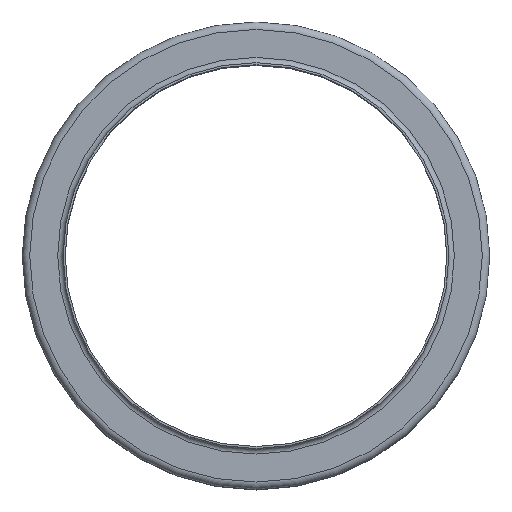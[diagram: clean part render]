
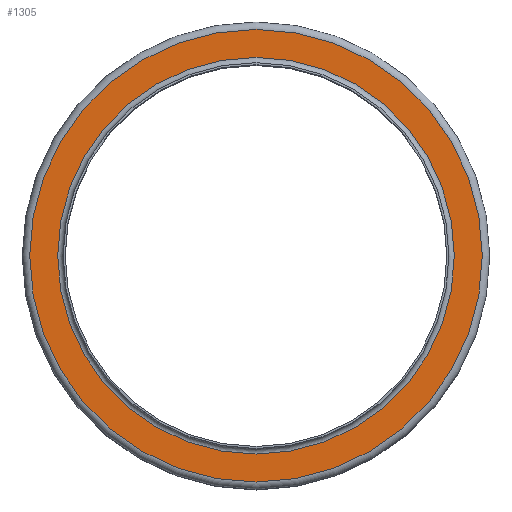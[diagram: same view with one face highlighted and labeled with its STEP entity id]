
A CAD part, top view. The second image highlights one B-rep face of the part: STEP entity #1305.
In plain terms, the highlighted planar face has unit normal (0, 0, 1).
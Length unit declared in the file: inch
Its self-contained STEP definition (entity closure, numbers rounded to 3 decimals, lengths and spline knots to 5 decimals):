
#130=FACE_BOUND('',#384,.T.);
#229=FACE_OUTER_BOUND('',#383,.T.);
#383=EDGE_LOOP('',(#1108));
#384=EDGE_LOOP('',(#1109));
#545=CIRCLE('',#1574,2.89025);
#546=CIRCLE('',#1576,3.29775);
#658=VERTEX_POINT('',#2470);
#659=VERTEX_POINT('',#2474);
#811=EDGE_CURVE('',#658,#658,#545,.T.);
#812=EDGE_CURVE('',#659,#659,#546,.T.);
#1108=ORIENTED_EDGE('',*,*,#812,.F.);
#1109=ORIENTED_EDGE('',*,*,#811,.T.);
#1206=PLANE('',#1575);
#1305=ADVANCED_FACE('',(#229,#130),#1206,.T.);
#1574=AXIS2_PLACEMENT_3D('',#2472,#2070,#2071);
#1575=AXIS2_PLACEMENT_3D('',#2473,#2072,#2073);
#1576=AXIS2_PLACEMENT_3D('',#2475,#2074,#2075);
#2070=DIRECTION('center_axis',(0.,0.,-1.));
#2071=DIRECTION('ref_axis',(1.,0.,0.));
#2072=DIRECTION('center_axis',(0.,0.,1.));
#2073=DIRECTION('ref_axis',(1.,0.,0.));
#2074=DIRECTION('center_axis',(0.,0.,-1.));
#2075=DIRECTION('ref_axis',(1.,0.,0.));
#2470=CARTESIAN_POINT('',(2.89025,0.,-0.07875));
#2472=CARTESIAN_POINT('Origin',(0.,0.,-0.07875));
#2473=CARTESIAN_POINT('Origin',(0.,3.29775,-0.07875));
#2474=CARTESIAN_POINT('',(3.29775,0.,-0.07875));
#2475=CARTESIAN_POINT('Origin',(0.,0.,-0.07875));
